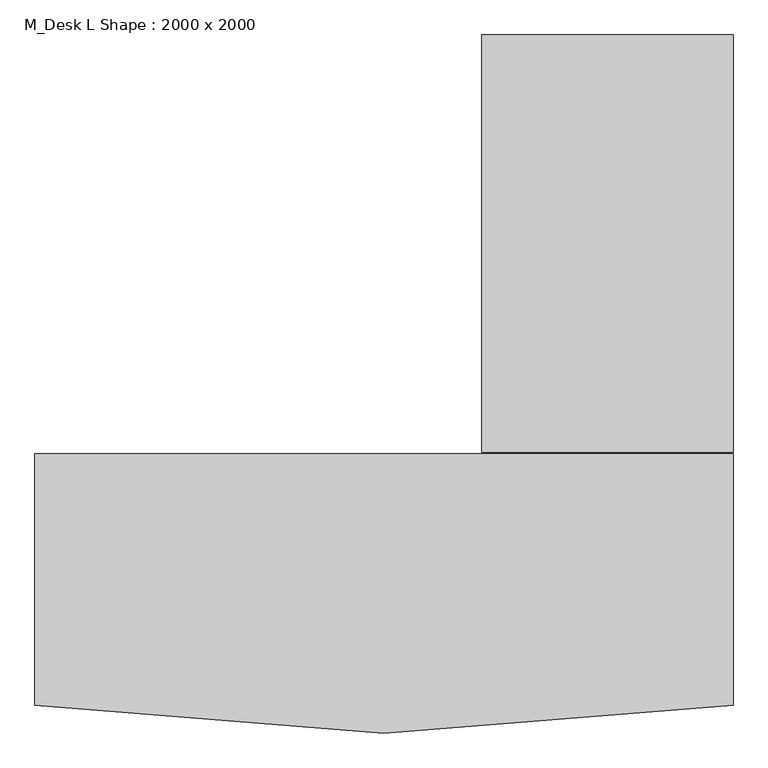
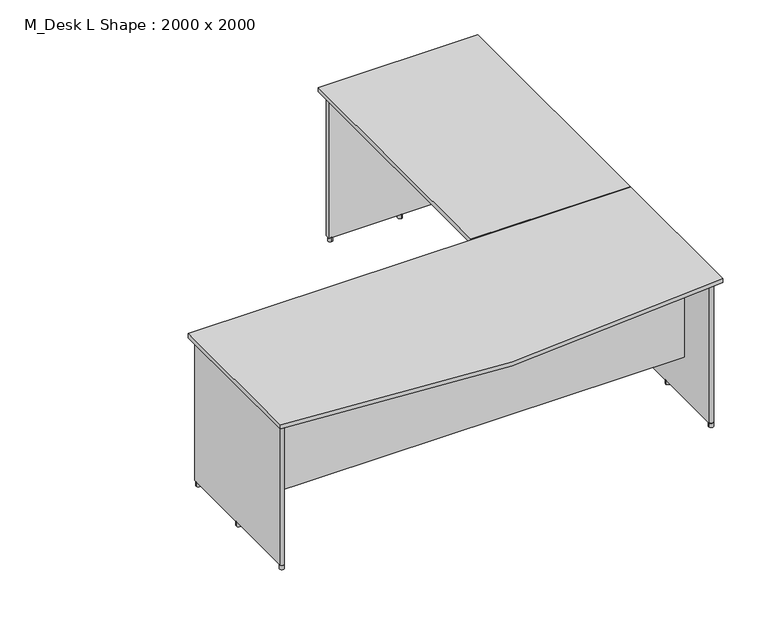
"""IFC4 building model written with IfcOpenShell, lengths in millimetres: furniture geometry, M_Desk L Shape : 2000 x 2000."""

from ifc_helpers import new_model, si_unit, point, frame, frame_2d, origin, origin_with_axes, place, context, project, spatial, polyline, circle_curve, trimmed, segment, composite_curve, outline, extrude, source, transform, mapped, element, save


def m_desk_l_shape_2000_x_2000_cdca6658(model_context):
    return source(origin(), model_context, "Body", "SweptSolid", [
        extrude(outline(composite_curve([segment(trimmed(circle_curve(frame_2d((-1250.0003738, -26.5806648)), 10.0), [point((-1260.0003738, -26.5806648))], [point((-1240.0003738, -26.5806648))], False, "CARTESIAN"), True, "CONTINUOUS"), segment(trimmed(circle_curve(frame_2d((-1250.0003738, -26.5806648)), 10.0), [point((-1240.0003738, -26.5806648))], [point((-1260.0003738, -26.5806648))], False, "CARTESIAN"), True, "CONTINUOUS")], self_intersect=False)), origin_with_axes(), (0.0, 0.0, 1.0), 20.0),
        extrude(outline(composite_curve([segment(trimmed(circle_curve(frame_2d((-1250.0003738, -679.3436367)), 10.0), [point((-1260.0003738, -679.3436367))], [point((-1240.0003738, -679.3436367))], False, "CARTESIAN"), True, "CONTINUOUS"), segment(trimmed(circle_curve(frame_2d((-1250.0003738, -679.3436367)), 10.0), [point((-1240.0003738, -679.3436367))], [point((-1260.0003738, -679.3436367))], False, "CARTESIAN"), True, "CONTINUOUS")], self_intersect=False)), origin_with_axes(), (0.0, 0.0, 1.0), 20.0),
        extrude(outline(composite_curve([segment(trimmed(circle_curve(frame_2d((-1250.0003738, -341.5806648)), 10.0), [point((-1260.0003738, -341.5806648))], [point((-1240.0003738, -341.5806648))], False, "CARTESIAN"), True, "CONTINUOUS"), segment(trimmed(circle_curve(frame_2d((-1250.0003738, -341.5806648)), 10.0), [point((-1240.0003738, -341.5806648))], [point((-1260.0003738, -341.5806648))], False, "CARTESIAN"), True, "CONTINUOUS")], self_intersect=False)), origin_with_axes(), (0.0, 0.0, 1.0), 20.0),
        extrude(outline(composite_curve([segment(trimmed(circle_curve(frame_2d((690.0003738, -26.5806648)), 10.0), [point((700.0003738, -26.5806648))], [point((680.0003738, -26.5806648))], False, "CARTESIAN"), True, "CONTINUOUS"), segment(trimmed(circle_curve(frame_2d((690.0003738, -26.5806648)), 10.0), [point((680.0003738, -26.5806648))], [point((700.0003738, -26.5806648))], False, "CARTESIAN"), True, "CONTINUOUS")], self_intersect=False)), origin_with_axes(), (0.0, 0.0, 1.0), 20.0),
        extrude(outline(composite_curve([segment(trimmed(circle_curve(frame_2d((690.0003738, -679.3436367)), 10.0), [point((700.0003738, -679.3436367))], [point((680.0003738, -679.3436367))], False, "CARTESIAN"), True, "CONTINUOUS"), segment(trimmed(circle_curve(frame_2d((690.0003738, -679.3436367)), 10.0), [point((680.0003738, -679.3436367))], [point((700.0003738, -679.3436367))], False, "CARTESIAN"), True, "CONTINUOUS")], self_intersect=False)), origin_with_axes(), (0.0, 0.0, 1.0), 20.0),
        extrude(outline(composite_curve([segment(trimmed(circle_curve(frame_2d((690.0003738, -341.5806648)), 10.0), [point((700.0003738, -341.5806648))], [point((680.0003738, -341.5806648))], False, "CARTESIAN"), True, "CONTINUOUS"), segment(trimmed(circle_curve(frame_2d((690.0003738, -341.5806648)), 10.0), [point((680.0003738, -341.5806648))], [point((700.0003738, -341.5806648))], False, "CARTESIAN"), True, "CONTINUOUS")], self_intersect=False)), origin_with_axes(), (0.0, 0.0, 1.0), 20.0),
        extrude(outline(composite_curve([segment(trimmed(circle_curve(frame_2d((33.3473423, 1163.8215353)), 10.0), [point((33.3473423, 1173.8215353))], [point((33.3473423, 1153.8215353))], False, "CARTESIAN"), True, "CONTINUOUS"), segment(trimmed(circle_curve(frame_2d((33.3473423, 1163.8215353)), 10.0), [point((33.3473423, 1153.8215353))], [point((33.3473423, 1173.8215353))], False, "CARTESIAN"), True, "CONTINUOUS")], self_intersect=False)), origin_with_axes(), (0.0, 0.0, 1.0), 20.0),
        extrude(outline(composite_curve([segment(trimmed(circle_curve(frame_2d((686.1103142, 1163.8215353)), 10.0), [point((686.1103142, 1173.8215353))], [point((686.1103142, 1153.8215353))], False, "CARTESIAN"), True, "CONTINUOUS"), segment(trimmed(circle_curve(frame_2d((686.1103142, 1163.8215353)), 10.0), [point((686.1103142, 1153.8215353))], [point((686.1103142, 1173.8215353))], False, "CARTESIAN"), True, "CONTINUOUS")], self_intersect=False)), origin_with_axes(), (0.0, 0.0, 1.0), 20.0),
        extrude(outline(composite_curve([segment(trimmed(circle_curve(frame_2d((348.3473423, 1163.8215353)), 10.0), [point((348.3473423, 1173.8215353))], [point((348.3473423, 1153.8215353))], False, "CARTESIAN"), True, "CONTINUOUS"), segment(trimmed(circle_curve(frame_2d((348.3473423, 1163.8215353)), 10.0), [point((348.3473423, 1153.8215353))], [point((348.3473423, 1173.8215353))], False, "CARTESIAN"), True, "CONTINUOUS")], self_intersect=False)), origin_with_axes(), (0.0, 0.0, 1.0), 20.0),
        extrude(outline(polyline([(700.0, -15.0), (680.0, -15.0), (680.0, 1145.0), (700.0, 1145.0), (700.0, -15.0)])), frame((0.0, 0.0, 220.0), z_axis=(0.0, 0.0, 1.0), x_axis=(1.0, 0.0, 0.0)), (0.0, 0.0, 1.0), 480.0),
        extrude(outline(polyline([(680.0, -470.0), (680.0, -490.0), (-1240.0, -490.0), (-1240.0, -470.0), (680.0, -470.0)])), frame((0.0, 0.0, 220.0), z_axis=(0.0, 0.0, 1.0), x_axis=(1.0, 0.0, 0.0)), (0.0, 0.0, 1.0), 480.0),
        extrude(outline(composite_curve([segment(polyline([(-1240.0, -15.0), (-1240.0, -680.0)]), True, "CONTINUOUS"), segment(trimmed(circle_curve(frame_2d((-1250.0, -680.0)), 10.0), [point((-1240.0, -680.0))], [point((-1260.0, -680.0))], False, "CARTESIAN"), True, "CONTINUOUS"), segment(polyline([(-1260.0, -680.0), (-1260.0, -15.0), (-1240.0, -15.0)]), True, "CONTINUOUS")], self_intersect=False)), frame((0.0, 0.0, 20.0), z_axis=(0.0, 0.0, 1.0), x_axis=(1.0, 0.0, 0.0)), (0.0, 0.0, 1.0), 680.0),
        extrude(outline(composite_curve([segment(polyline([(21.1103142, 1173.8215353), (686.1103142, 1173.8215353)]), True, "CONTINUOUS"), segment(trimmed(circle_curve(frame_2d((686.1103142, 1163.8215353)), 10.0), [point((686.1103142, 1173.8215353))], [point((686.1103142, 1153.8215353))], False, "CARTESIAN"), True, "CONTINUOUS"), segment(polyline([(686.1103142, 1153.8215353), (21.1103142, 1153.8215353), (21.1103142, 1173.8215353)]), True, "CONTINUOUS")], self_intersect=False)), frame((0.0, 0.0, 20.0), z_axis=(0.0, 0.0, 1.0), x_axis=(1.0, 0.0, 0.0)), (0.0, 0.0, 1.0), 680.0),
        extrude(outline(composite_curve([segment(polyline([(680.0, -15.0), (700.0, -15.0), (700.0, -680.0)]), True, "CONTINUOUS"), segment(trimmed(circle_curve(frame_2d((690.0, -680.0)), 10.0), [point((700.0, -680.0))], [point((680.0, -680.0))], False, "CARTESIAN"), True, "CONTINUOUS"), segment(polyline([(680.0, -680.0), (680.0, -15.0)]), True, "CONTINUOUS")], self_intersect=False)), frame((0.0, 0.0, 20.0), z_axis=(0.0, 0.0, 1.0), x_axis=(1.0, 0.0, 0.0)), (0.0, 0.0, 1.0), 680.0),
        extrude(outline(polyline([(0.0, 1200.0), (720.0, 1200.0), (720.0, 5.0), (0.0, 5.0), (0.0, 1200.0)])), frame((0.0, 0.0, 700.0), z_axis=(0.0, 0.0, 1.0), x_axis=(1.0, 0.0, 0.0)), (0.0, 0.0, 1.0), 20.0),
        extrude(outline(composite_curve([segment(polyline([(-1280.0, -720.0), (-1280.0, 0.0), (720.0, 0.0), (720.0, -720.0)]), True, "CONTINUOUS"), segment(trimmed(circle_curve(frame_2d((-280.0, 5490.0)), 6290.0), [point((720.0, -720.0))], [point((-1280.0, -720.0))], False, "CARTESIAN"), True, "CONTINUOUS")], self_intersect=False)), frame((0.0, 0.0, 700.0), z_axis=(0.0, 0.0, 1.0), x_axis=(1.0, 0.0, 0.0)), (0.0, 0.0, 1.0), 20.0),
    ])


if __name__ == "__main__":
    model = new_model("IFC4")
    model_context = context("Model", 3, world=origin())
    ifc_project = project(units=[si_unit("LENGTHUNIT", "METRE", prefix="MILLI")], contexts=[model_context])
    site = spatial("IfcSite", under=ifc_project)
    building = spatial("IfcBuilding", under=site)
    placement = place(None, origin())
    m_desk_l_shape_2000_x_2000_shape = m_desk_l_shape_2000_x_2000_cdca6658(model_context)
    element("IfcFurniture", 1, ObjectType="M_Desk L Shape : 2000 x 2000", at=placement, inside=building, context=model_context, shape_type="MappedRepresentation", body=[
        mapped(m_desk_l_shape_2000_x_2000_shape, transform((0.0, 0.0, 0.0), x_axis=(1.0, 0.0, 0.0), y_axis=(0.0, 1.0, 0.0), z_axis=(0.0, 0.0, 1.0))),
    ])
    save(model, "model.ifc")
